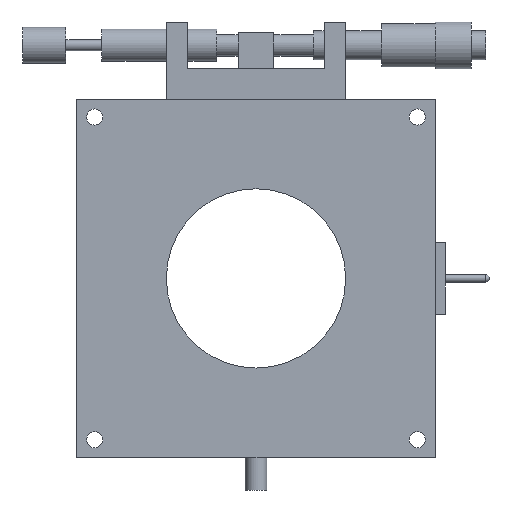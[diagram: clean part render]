
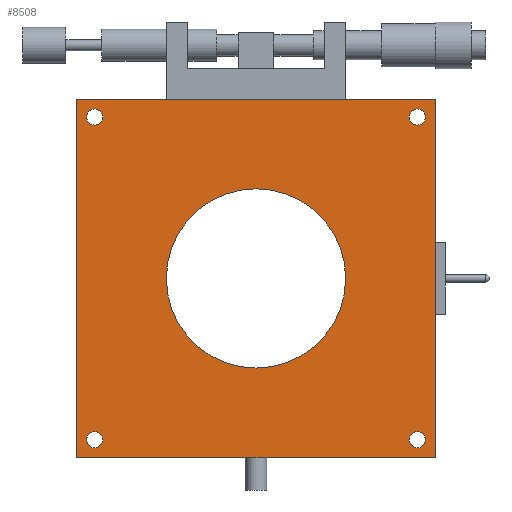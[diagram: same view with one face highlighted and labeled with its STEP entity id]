
A CAD part, front view. The second image highlights one B-rep face of the part: STEP entity #8508.
In plain terms, the highlighted planar face has unit normal (0, -1, 0).
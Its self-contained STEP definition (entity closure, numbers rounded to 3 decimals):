
#390 = CARTESIAN_POINT ( 'NONE',  ( -45., -3.5, -42.75 ) ) ;
#549 = EDGE_CURVE ( 'NONE', #14213, #1072, #4337, .T. ) ;
#703 = DIRECTION ( 'NONE',  ( 0., 1., 0. ) ) ;
#755 = EDGE_CURVE ( 'NONE', #3174, #11086, #7831, .T. ) ;
#1072 = VERTEX_POINT ( 'NONE', #8204 ) ;
#1239 = CIRCLE ( 'NONE', #11249, 25. ) ;
#1262 = CARTESIAN_POINT ( 'NONE',  ( 0., -3.5, 0. ) ) ;
#1439 = FACE_BOUND ( 'NONE', #7530, .T. ) ;
#1568 = EDGE_CURVE ( 'NONE', #5459, #12124, #11853, .T. ) ;
#1629 = LINE ( 'NONE', #10444, #16104 ) ;
#1809 = EDGE_CURVE ( 'NONE', #16612, #11864, #7139, .T. ) ;
#1859 = DIRECTION ( 'NONE',  ( 0., 1., 0. ) ) ;
#1992 = CARTESIAN_POINT ( 'NONE',  ( 50., -3.5, -50. ) ) ;
#2062 = LINE ( 'NONE', #9196, #13774 ) ;
#2187 = ORIENTED_EDGE ( 'NONE', *, *, #1809, .T. ) ;
#2220 = CARTESIAN_POINT ( 'NONE',  ( 45., -3.5, 45. ) ) ;
#2292 = VERTEX_POINT ( 'NONE', #5466 ) ;
#2388 = ORIENTED_EDGE ( 'NONE', *, *, #15052, .F. ) ;
#2708 = CIRCLE ( 'NONE', #15902, 2.25 ) ;
#2812 = CARTESIAN_POINT ( 'NONE',  ( -45., -3.5, -47.25 ) ) ;
#2839 = EDGE_CURVE ( 'NONE', #3854, #12141, #14995, .T. ) ;
#2888 = VERTEX_POINT ( 'NONE', #8669 ) ;
#2988 = AXIS2_PLACEMENT_3D ( 'NONE', #8598, #11162, #3011 ) ;
#3011 = DIRECTION ( 'NONE',  ( 0., 0., 1. ) ) ;
#3065 = VERTEX_POINT ( 'NONE', #12783 ) ;
#3174 = VERTEX_POINT ( 'NONE', #5205 ) ;
#3450 = VERTEX_POINT ( 'NONE', #1992 ) ;
#3658 = DIRECTION ( 'NONE',  ( 0., 1., 0. ) ) ;
#3730 = CARTESIAN_POINT ( 'NONE',  ( 0., -3.5, 0. ) ) ;
#3784 = CARTESIAN_POINT ( 'NONE',  ( 45., -3.5, -45. ) ) ;
#3854 = VERTEX_POINT ( 'NONE', #12296 ) ;
#3964 = ORIENTED_EDGE ( 'NONE', *, *, #14930, .F. ) ;
#4337 = CIRCLE ( 'NONE', #17019, 25. ) ;
#4499 = AXIS2_PLACEMENT_3D ( 'NONE', #7506, #1859, #10182 ) ;
#4620 = CARTESIAN_POINT ( 'NONE',  ( 45., -3.5, 45. ) ) ;
#4716 = FACE_BOUND ( 'NONE', #6618, .T. ) ;
#4726 = CARTESIAN_POINT ( 'NONE',  ( 0., -3.5, -25. ) ) ;
#4737 = AXIS2_PLACEMENT_3D ( 'NONE', #4620, #10265, #4783 ) ;
#4783 = DIRECTION ( 'NONE',  ( 0., 0., 1. ) ) ;
#5025 = EDGE_CURVE ( 'NONE', #12141, #3854, #7069, .T. ) ;
#5205 = CARTESIAN_POINT ( 'NONE',  ( -45., -3.5, 42.75 ) ) ;
#5217 = CARTESIAN_POINT ( 'NONE',  ( 45., -3.5, -47.25 ) ) ;
#5459 = VERTEX_POINT ( 'NONE', #390 ) ;
#5466 = CARTESIAN_POINT ( 'NONE',  ( -50., -3.5, -50. ) ) ;
#5637 = AXIS2_PLACEMENT_3D ( 'NONE', #7009, #8392, #14993 ) ;
#6149 = DIRECTION ( 'NONE',  ( 0., 0., 1. ) ) ;
#6347 = CIRCLE ( 'NONE', #2988, 2.25 ) ;
#6387 = DIRECTION ( 'NONE',  ( 0., 0., 1. ) ) ;
#6560 = DIRECTION ( 'NONE',  ( 0., -1., 0. ) ) ;
#6618 = EDGE_LOOP ( 'NONE', ( #11382, #8359 ) ) ;
#6677 = FACE_OUTER_BOUND ( 'NONE', #10833, .T. ) ;
#6737 = CIRCLE ( 'NONE', #14419, 2.25 ) ;
#6789 = CARTESIAN_POINT ( 'NONE',  ( 45., -3.5, 47.25 ) ) ;
#7009 = CARTESIAN_POINT ( 'NONE',  ( -45., -3.5, -45. ) ) ;
#7069 = CIRCLE ( 'NONE', #12282, 2.25 ) ;
#7139 = CIRCLE ( 'NONE', #9091, 2.25 ) ;
#7165 = LINE ( 'NONE', #12535, #9098 ) ;
#7239 = ORIENTED_EDGE ( 'NONE', *, *, #5025, .T. ) ;
#7506 = CARTESIAN_POINT ( 'NONE',  ( -45., -3.5, 45. ) ) ;
#7530 = EDGE_LOOP ( 'NONE', ( #14088, #14788 ) ) ;
#7821 = DIRECTION ( 'NONE',  ( 0., 1., 0. ) ) ;
#7831 = CIRCLE ( 'NONE', #4499, 2.25 ) ;
#7895 = EDGE_LOOP ( 'NONE', ( #9649, #11250 ) ) ;
#7956 = ORIENTED_EDGE ( 'NONE', *, *, #16248, .F. ) ;
#8127 = EDGE_CURVE ( 'NONE', #12124, #5459, #6347, .T. ) ;
#8204 = CARTESIAN_POINT ( 'NONE',  ( 0., -3.5, 25. ) ) ;
#8359 = ORIENTED_EDGE ( 'NONE', *, *, #8127, .T. ) ;
#8392 = DIRECTION ( 'NONE',  ( 0., 1., 0. ) ) ;
#8508 = ADVANCED_FACE ( 'NONE', ( #13940, #4716, #1439, #13309, #17498, #6677 ), #14713, .T. ) ;
#8598 = CARTESIAN_POINT ( 'NONE',  ( -45., -3.5, -45. ) ) ;
#8669 = CARTESIAN_POINT ( 'NONE',  ( 50., -3.5, 50. ) ) ;
#9091 = AXIS2_PLACEMENT_3D ( 'NONE', #15971, #17323, #14780 ) ;
#9096 = ORIENTED_EDGE ( 'NONE', *, *, #15032, .T. ) ;
#9098 = VECTOR ( 'NONE', #9863, 1000. ) ;
#9196 = CARTESIAN_POINT ( 'NONE',  ( -50., -3.5, 50. ) ) ;
#9217 = DIRECTION ( 'NONE',  ( 0., 0., 1. ) ) ;
#9649 = ORIENTED_EDGE ( 'NONE', *, *, #15962, .T. ) ;
#9863 = DIRECTION ( 'NONE',  ( -1., 0., 0. ) ) ;
#9982 = VECTOR ( 'NONE', #14136, 1000. ) ;
#10182 = DIRECTION ( 'NONE',  ( 0., 0., 1. ) ) ;
#10265 = DIRECTION ( 'NONE',  ( 0., 1., 0. ) ) ;
#10444 = CARTESIAN_POINT ( 'NONE',  ( -50., -3.5, 50. ) ) ;
#10757 = AXIS2_PLACEMENT_3D ( 'NONE', #1262, #6560, #10791 ) ;
#10791 = DIRECTION ( 'NONE',  ( 0., 0., -1. ) ) ;
#10833 = EDGE_LOOP ( 'NONE', ( #17539, #2388, #3964, #7956 ) ) ;
#11086 = VERTEX_POINT ( 'NONE', #13886 ) ;
#11162 = DIRECTION ( 'NONE',  ( 0., 1., 0. ) ) ;
#11249 = AXIS2_PLACEMENT_3D ( 'NONE', #17174, #13200, #9217 ) ;
#11250 = ORIENTED_EDGE ( 'NONE', *, *, #549, .T. ) ;
#11382 = ORIENTED_EDGE ( 'NONE', *, *, #1568, .T. ) ;
#11693 = DIRECTION ( 'NONE',  ( 0., 0., 1. ) ) ;
#11853 = CIRCLE ( 'NONE', #5637, 2.25 ) ;
#11864 = VERTEX_POINT ( 'NONE', #5217 ) ;
#11876 = DIRECTION ( 'NONE',  ( 1., 0., 0. ) ) ;
#12124 = VERTEX_POINT ( 'NONE', #2812 ) ;
#12141 = VERTEX_POINT ( 'NONE', #6789 ) ;
#12282 = AXIS2_PLACEMENT_3D ( 'NONE', #2220, #3658, #11693 ) ;
#12296 = CARTESIAN_POINT ( 'NONE',  ( 45., -3.5, 42.75 ) ) ;
#12365 = ORIENTED_EDGE ( 'NONE', *, *, #2839, .T. ) ;
#12535 = CARTESIAN_POINT ( 'NONE',  ( -50., -3.5, -50. ) ) ;
#12654 = CARTESIAN_POINT ( 'NONE',  ( 50., -3.5, 50. ) ) ;
#12783 = CARTESIAN_POINT ( 'NONE',  ( -50., -3.5, 50. ) ) ;
#12935 = LINE ( 'NONE', #12654, #9982 ) ;
#13053 = DIRECTION ( 'NONE',  ( 0., 0., 1. ) ) ;
#13200 = DIRECTION ( 'NONE',  ( 0., 1., 0. ) ) ;
#13240 = DIRECTION ( 'NONE',  ( 0., 1., 0. ) ) ;
#13309 = FACE_BOUND ( 'NONE', #15311, .T. ) ;
#13640 = CARTESIAN_POINT ( 'NONE',  ( 45., -3.5, -42.75 ) ) ;
#13774 = VECTOR ( 'NONE', #11876, 1000. ) ;
#13886 = CARTESIAN_POINT ( 'NONE',  ( -45., -3.5, 47.25 ) ) ;
#13940 = FACE_BOUND ( 'NONE', #7895, .T. ) ;
#14088 = ORIENTED_EDGE ( 'NONE', *, *, #14948, .T. ) ;
#14136 = DIRECTION ( 'NONE',  ( 0., 0., -1. ) ) ;
#14213 = VERTEX_POINT ( 'NONE', #4726 ) ;
#14267 = EDGE_CURVE ( 'NONE', #2888, #3450, #12935, .T. ) ;
#14305 = CARTESIAN_POINT ( 'NONE',  ( -45., -3.5, 45. ) ) ;
#14419 = AXIS2_PLACEMENT_3D ( 'NONE', #14305, #703, #13053 ) ;
#14703 = EDGE_LOOP ( 'NONE', ( #2187, #9096 ) ) ;
#14713 = PLANE ( 'NONE',  #10757 ) ;
#14780 = DIRECTION ( 'NONE',  ( 0., 0., 1. ) ) ;
#14788 = ORIENTED_EDGE ( 'NONE', *, *, #755, .T. ) ;
#14930 = EDGE_CURVE ( 'NONE', #2292, #3065, #1629, .T. ) ;
#14948 = EDGE_CURVE ( 'NONE', #11086, #3174, #6737, .T. ) ;
#14993 = DIRECTION ( 'NONE',  ( 0., 0., 1. ) ) ;
#14995 = CIRCLE ( 'NONE', #4737, 2.25 ) ;
#15032 = EDGE_CURVE ( 'NONE', #11864, #16612, #2708, .T. ) ;
#15052 = EDGE_CURVE ( 'NONE', #3065, #2888, #2062, .T. ) ;
#15311 = EDGE_LOOP ( 'NONE', ( #7239, #12365 ) ) ;
#15902 = AXIS2_PLACEMENT_3D ( 'NONE', #3784, #7821, #6387 ) ;
#15962 = EDGE_CURVE ( 'NONE', #1072, #14213, #1239, .T. ) ;
#15971 = CARTESIAN_POINT ( 'NONE',  ( 45., -3.5, -45. ) ) ;
#16104 = VECTOR ( 'NONE', #6149, 1000. ) ;
#16248 = EDGE_CURVE ( 'NONE', #3450, #2292, #7165, .T. ) ;
#16612 = VERTEX_POINT ( 'NONE', #13640 ) ;
#17019 = AXIS2_PLACEMENT_3D ( 'NONE', #3730, #13240, #17430 ) ;
#17174 = CARTESIAN_POINT ( 'NONE',  ( 0., -3.5, 0. ) ) ;
#17323 = DIRECTION ( 'NONE',  ( 0., 1., 0. ) ) ;
#17430 = DIRECTION ( 'NONE',  ( 0., 0., 1. ) ) ;
#17498 = FACE_BOUND ( 'NONE', #14703, .T. ) ;
#17539 = ORIENTED_EDGE ( 'NONE', *, *, #14267, .F. ) ;
